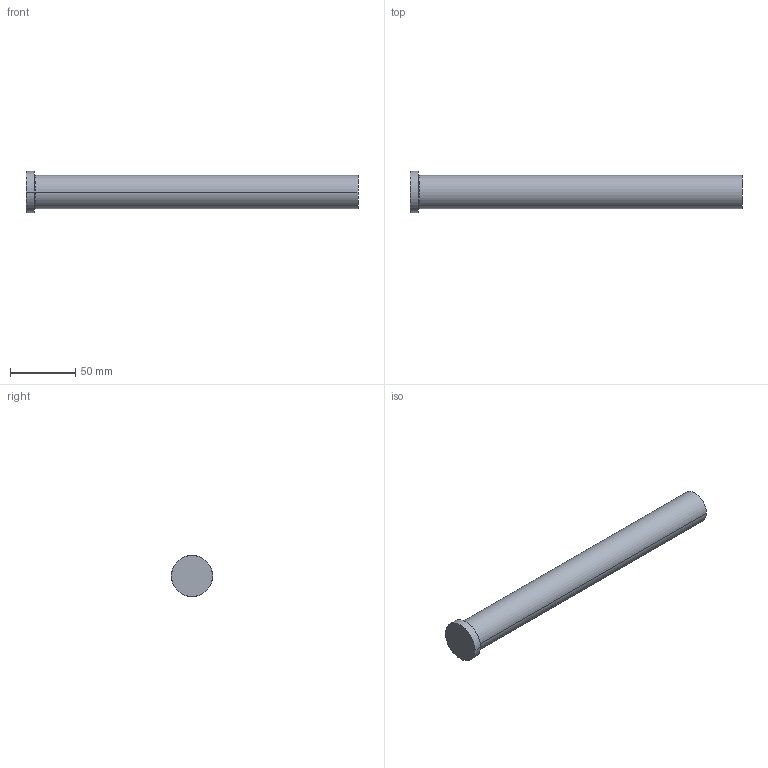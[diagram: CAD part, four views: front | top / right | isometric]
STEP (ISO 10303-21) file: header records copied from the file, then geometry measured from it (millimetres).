
FILE_DESCRIPTION (( 'STEP AP214' ), '1' );
FILE_NAME ('P47-10.STEP', '2020-03-12T12:26:38', ( '' ), ( '' ), 'SwSTEP 2.0', 'SolidWorks 2018', '' );
FILE_SCHEMA (( 'AUTOMOTIVE_DESIGN' ));
Length unit declared in the file: inch
Products named in the file (1): P47-10
Bounding box: 254 x 31.75 x 31.75 mm (x, y, z)
Volume: 130397.2 mm3; surface area: 21930.8 mm2
Topology: 1 solids, 1 shells, 13 faces, 24 edges, 14 vertices
Faces by surface type: cone 4, cylinder 4, plane 3, torus 2
Entity records: 366 total; most frequent: DIRECTION 68, CARTESIAN_POINT 52, ORIENTED_EDGE 48, AXIS2_PLACEMENT_3D 30, EDGE_CURVE 24, CIRCLE 16, EDGE_LOOP 14, VERTEX_POINT 14
